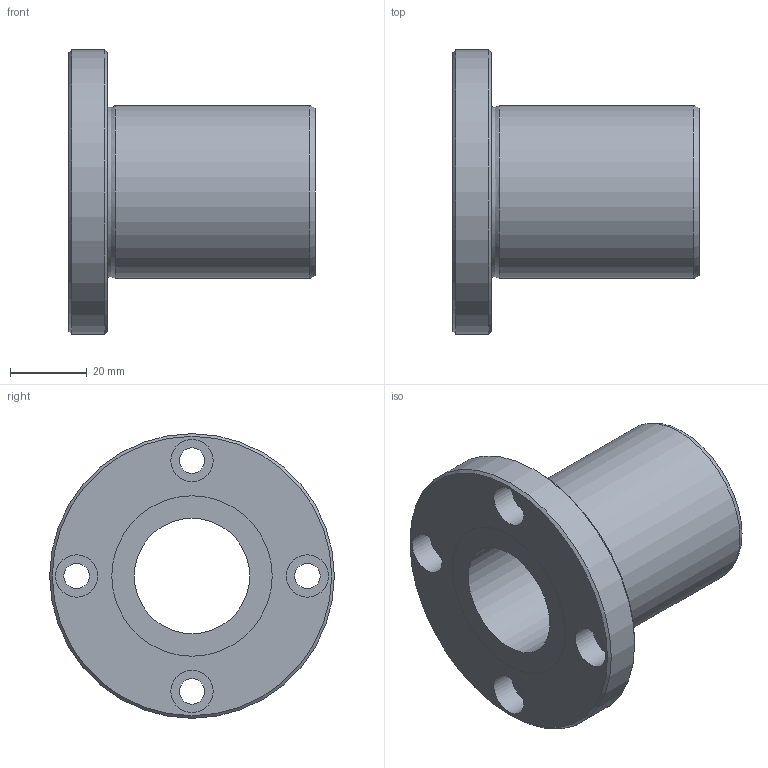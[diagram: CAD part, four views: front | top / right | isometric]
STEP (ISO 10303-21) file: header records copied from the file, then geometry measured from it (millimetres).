
FILE_DESCRIPTION((''),'2;1');
FILE_NAME('D:\製品 (図面)\カタログ用3D\リニアベアリング関連\STEP形式\LF\LF30B.stp','2010-06-03T09:14:30',('Tsuchiya'),(''),'Autodesk Inventor 10','Autodesk Inventor 10','');
FILE_SCHEMA(('AUTOMOTIVE_DESIGN { 1 0 10303 214 1 1 1 1 }'));
Length unit declared in the file: millimetre
Products named in the file (1): LF30B
Bounding box: 64 x 74 x 74 mm (x, y, z)
Volume: 80283.2 mm3; surface area: 23894.9 mm2
Topology: 1 solids, 1 shells, 26 faces, 47 edges, 30 vertices
Faces by surface type: cylinder 13, plane 9, cone 2, torus 1, bspline 1
Full cylindrical faces by diameter (mm): 6.6 x4, 11 x4, 30 x1, 41.7 x2, 45 x1, 74 x1
Entity records: 665 total; most frequent: CARTESIAN_POINT 149, DIRECTION 112, ORIENTED_EDGE 60, EDGE_LOOP 60, AXIS2_PLACEMENT_3D 56, FACE_BOUND 34, VERTEX_POINT 30, CIRCLE 30
